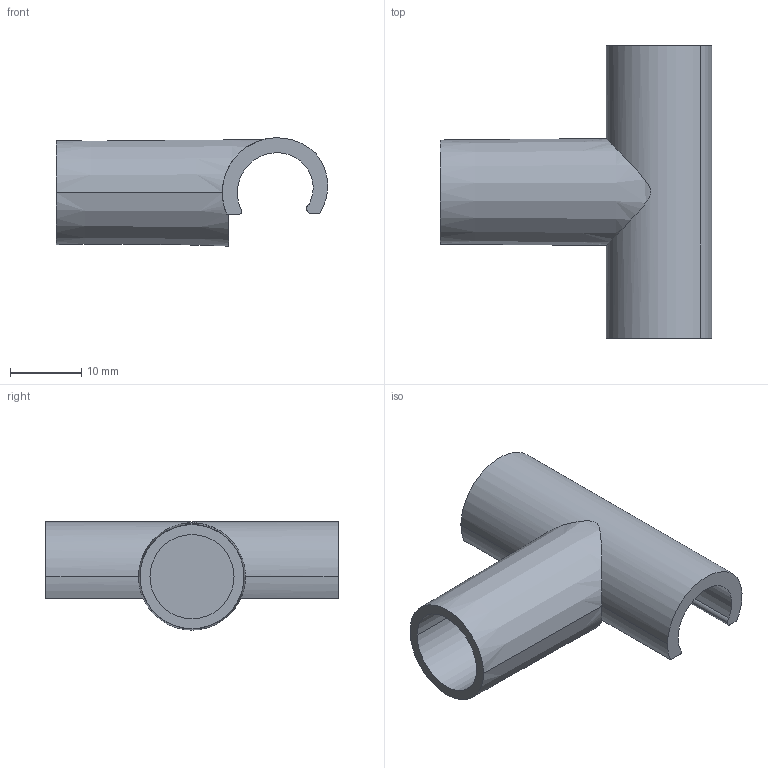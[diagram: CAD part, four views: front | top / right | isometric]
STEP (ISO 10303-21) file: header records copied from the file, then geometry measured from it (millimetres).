
FILE_DESCRIPTION (( 'STEP AP214' ), '1' );
FILE_NAME ('Unterteilungshalter P102.STEP', '2010-09-07T13:27:12', ( 'grass' ), ( '' ), 'SwSTEP 2.0', 'SolidWorks 2010', '' );
FILE_SCHEMA (( 'AUTOMOTIVE_DESIGN' ));
Length unit declared in the file: millimetre
Products named in the file (1): Unterteilungshalter P102
Bounding box: 38.08 x 41 x 15.19 mm (x, y, z)
Volume: 3895.5 mm3; surface area: 4542.5 mm2
Topology: 1 solids, 1 shells, 21 faces, 52 edges, 34 vertices
Faces by surface type: cylinder 12, plane 7, cone 2
Entity records: 734 total; most frequent: CARTESIAN_POINT 183, DIRECTION 116, ORIENTED_EDGE 104, EDGE_CURVE 52, AXIS2_PLACEMENT_3D 47, VERTEX_POINT 34, CIRCLE 25, LINE 22
